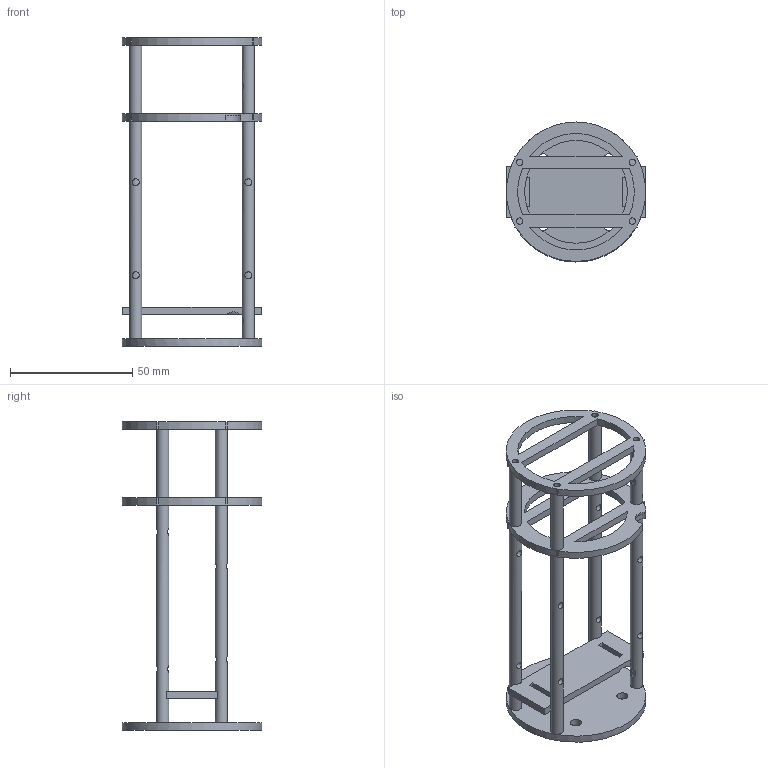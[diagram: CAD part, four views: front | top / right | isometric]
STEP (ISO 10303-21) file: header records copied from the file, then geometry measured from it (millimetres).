
FILE_DESCRIPTION(('FreeCAD Model'),'2;1');
FILE_NAME('Open CASCADE Shape Model','2026-09-19T18:07:28',('FreeCAD'),( 'FreeCAD'),'Open CASCADE STEP processor 7.8','FreeCAD','Unknown');
FILE_SCHEMA(('AUTOMOTIVE_DESIGN { 1 0 10303 214 1 1 1 1 }'));
Length unit declared in the file: millimetre
Products named in the file (1): Open CASCADE STEP translator 7.8 11
Bounding box: 57 x 57 x 126 mm (x, y, z)
Volume: 27216.6 mm3; surface area: 24498.3 mm2
Topology: 1 solids, 5 shells, 128 faces, 380 edges, 274 vertices
Faces by surface type: plane 65, cylinder 51, torus 12
Full cylindrical faces by diameter (mm): 2.6 x8, 2.8 x8, 3.4 x4, 4.5 x4, 5 x8, 57 x1
Entity records: 6579 total; most frequent: CARTESIAN_POINT 2854, DIRECTION 779, ORIENTED_EDGE 760, EDGE_CURVE 380, AXIS2_PLACEMENT_3D 301, VERTEX_POINT 274, FACE_BOUND 198, EDGE_LOOP 198
